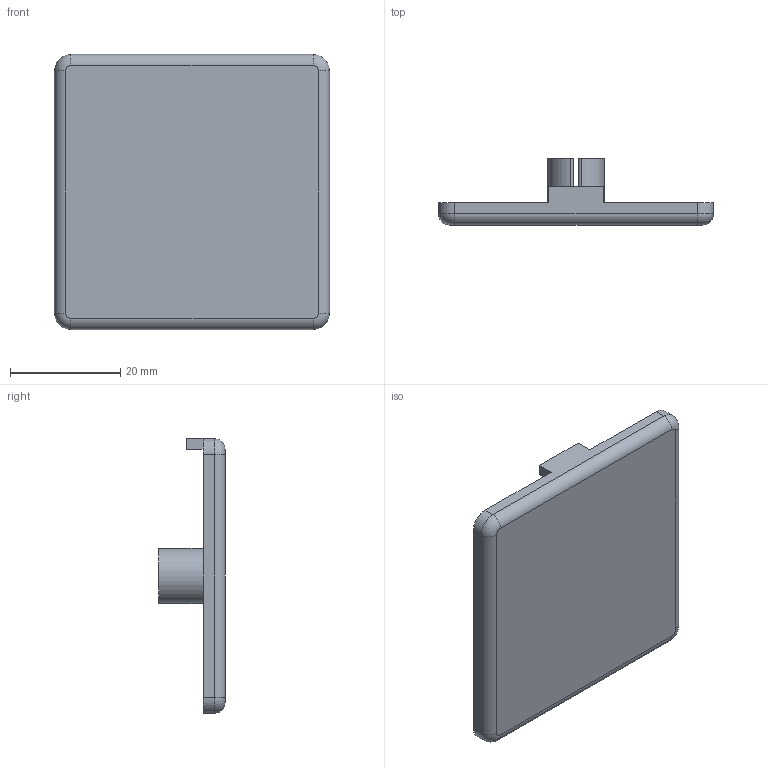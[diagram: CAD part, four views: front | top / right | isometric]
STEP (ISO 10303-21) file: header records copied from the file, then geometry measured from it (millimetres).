
FILE_DESCRIPTION (( 'STEP AP214' ), '1' );
FILE_NAME ('4005.STEP', '2017-08-10T06:13:29', ( '' ), ( '' ), 'SwSTEP 2.0', 'SolidWorks 2014', '' );
FILE_SCHEMA (( 'AUTOMOTIVE_DESIGN' ));
Length unit declared in the file: millimetre
Products named in the file (2): 4005
Bounding box: 50 x 12 x 50 mm (x, y, z)
Volume: 5937.4 mm3; surface area: 6586.4 mm2
Topology: 1 solids, 1 shells, 50 faces, 130 edges, 84 vertices
Faces by surface type: cylinder 26, plane 20, torus 4
Entity records: 1595 total; most frequent: DIRECTION 290, CARTESIAN_POINT 266, ORIENTED_EDGE 260, EDGE_CURVE 130, AXIS2_PLACEMENT_3D 108, VERTEX_POINT 84, VECTOR 74, LINE 74
